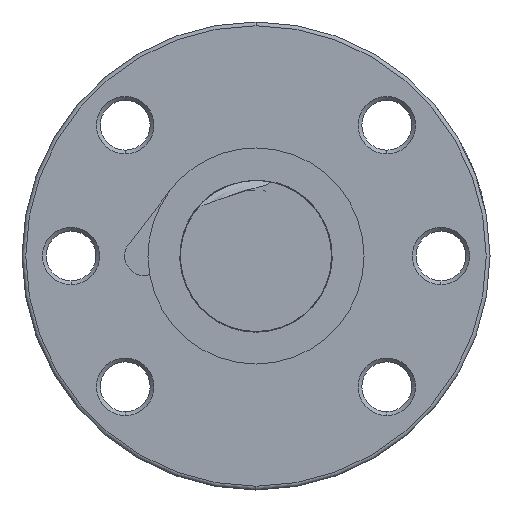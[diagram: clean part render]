
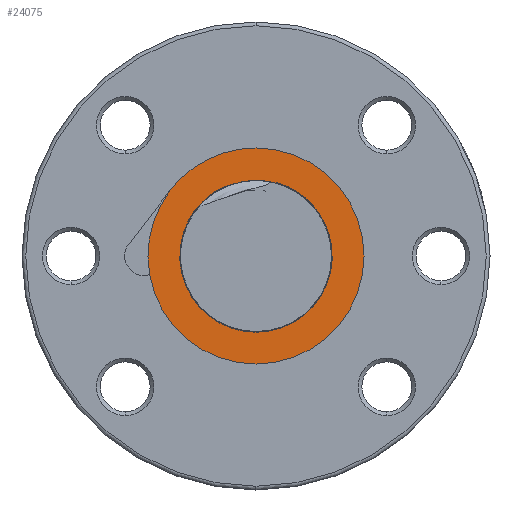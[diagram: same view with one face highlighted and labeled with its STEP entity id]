
A CAD part, left-side view. The second image highlights one B-rep face of the part: STEP entity #24075.
In plain terms, the highlighted planar face has unit normal (-1, 0, 0).
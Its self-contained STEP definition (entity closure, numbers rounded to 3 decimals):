
#953 = DIRECTION ( 'NONE',  ( 0., 0., 1. ) ) ;
#954 = DIRECTION ( 'NONE',  ( -1., 0., 0. ) ) ;
#1142 = CARTESIAN_POINT ( 'NONE',  ( -115.8, 0., 0. ) ) ;
#1143 = AXIS2_PLACEMENT_3D ( 'NONE', #1142, #954, #953 ) ;
#1148 = CIRCLE ( 'NONE', #1143, 10.1 ) ;
#1314 = CARTESIAN_POINT ( 'NONE',  ( -115.8, -2.664, 9.742 ) ) ;
#1384 = CARTESIAN_POINT ( 'NONE',  ( -115.8, 14.095, -2.486 ) ) ;
#1385 = DIRECTION ( 'NONE',  ( 0., 0., 1. ) ) ;
#1386 = DIRECTION ( 'NONE',  ( -1., 0., 0. ) ) ;
#1387 = CARTESIAN_POINT ( 'NONE',  ( -115.8, 0., 0. ) ) ;
#1388 = AXIS2_PLACEMENT_3D ( 'NONE', #1387, #1386, #1385 ) ;
#1393 = CIRCLE ( 'NONE', #1388, 14.313 ) ;
#1483 = CARTESIAN_POINT ( 'NONE',  ( -115.8, 0., -10.1 ) ) ;
#1546 = DIRECTION ( 'NONE',  ( 0., 0., 1. ) ) ;
#1547 = DIRECTION ( 'NONE',  ( -1., 0., 0. ) ) ;
#1548 = CARTESIAN_POINT ( 'NONE',  ( -115.8, 0., 0. ) ) ;
#1549 = AXIS2_PLACEMENT_3D ( 'NONE', #1548, #1547, #1546 ) ;
#1550 = CIRCLE ( 'NONE', #1549, 10.1 ) ;
#1551 = FACE_BOUND ( 'NONE', #24071, .T. ) ;
#1552 = CARTESIAN_POINT ( 'NONE',  ( -115.8, 7.028, 7.254 ) ) ;
#1553 = CARTESIAN_POINT ( 'NONE',  ( -115.8, 6.932, 7.21 ) ) ;
#1554 = CARTESIAN_POINT ( 'NONE',  ( -115.8, 6.825, 7.192 ) ) ;
#1555 = CARTESIAN_POINT ( 'NONE',  ( -115.8, 6.614, 7.181 ) ) ;
#1556 = CARTESIAN_POINT ( 'NONE',  ( -115.8, 6.509, 7.188 ) ) ;
#1557 = CARTESIAN_POINT ( 'NONE',  ( -115.8, 6.197, 7.225 ) ) ;
#1558 = CARTESIAN_POINT ( 'NONE',  ( -115.8, 5.99, 7.274 ) ) ;
#1559 = CARTESIAN_POINT ( 'NONE',  ( -115.8, 5.38, 7.438 ) ) ;
#1560 = CARTESIAN_POINT ( 'NONE',  ( -115.8, 4.981, 7.574 ) ) ;
#1561 = CARTESIAN_POINT ( 'NONE',  ( -115.8, 4.181, 7.841 ) ) ;
#1562 = CARTESIAN_POINT ( 'NONE',  ( -115.8, 3.78, 7.973 ) ) ;
#1563 = CARTESIAN_POINT ( 'NONE',  ( -115.8, 2.975, 8.22 ) ) ;
#1564 = CARTESIAN_POINT ( 'NONE',  ( -115.8, 2.57, 8.335 ) ) ;
#1565 = CARTESIAN_POINT ( 'NONE',  ( -115.8, 1.755, 8.544 ) ) ;
#1566 = CARTESIAN_POINT ( 'NONE',  ( -115.8, 1.346, 8.638 ) ) ;
#1567 = CARTESIAN_POINT ( 'NONE',  ( -115.8, 0.523, 8.809 ) ) ;
#1568 = CARTESIAN_POINT ( 'NONE',  ( -115.8, 0.109, 8.886 ) ) ;
#1569 = CARTESIAN_POINT ( 'NONE',  ( -115.8, -0.719, 9.038 ) ) ;
#1570 = CARTESIAN_POINT ( 'NONE',  ( -115.8, -1.134, 9.11 ) ) ;
#1571 = CARTESIAN_POINT ( 'NONE',  ( -115.8, -1.745, 9.26 ) ) ;
#1572 = CARTESIAN_POINT ( 'NONE',  ( -115.8, -1.947, 9.316 ) ) ;
#1573 = CARTESIAN_POINT ( 'NONE',  ( -115.8, -2.24, 9.434 ) ) ;
#1574 = CARTESIAN_POINT ( 'NONE',  ( -115.8, -2.336, 9.479 ) ) ;
#1575 = CARTESIAN_POINT ( 'NONE',  ( -115.8, -2.516, 9.59 ) ) ;
#1576 = CARTESIAN_POINT ( 'NONE',  ( -115.8, -2.601, 9.658 ) ) ;
#1577 = CARTESIAN_POINT ( 'NONE',  ( -115.8, -2.664, 9.742 ) ) ;
#1578 = DIRECTION ( 'NONE',  ( 0., 0., 1. ) ) ;
#1579 = DIRECTION ( 'NONE',  ( -1., 0., 0. ) ) ;
#1580 = CARTESIAN_POINT ( 'NONE',  ( -115.8, 0., 10.1 ) ) ;
#1581 = AXIS2_PLACEMENT_3D ( 'NONE', #1580, #1579, #1578 ) ;
#1582 = PLANE ( 'NONE',  #1581 ) ;
#1583 = FACE_OUTER_BOUND ( 'NONE', #24199, .T. ) ;
#1584 = B_SPLINE_CURVE_WITH_KNOTS ( 'NONE', 3,
 ( #1577, #1576, #1575, #1574, #1573, #1572, #1571, #1570, #1569, #1568, #1567, #1566, #1565, #1564, #1563, #1562, #1561, #1560, #1559, #1558, #1557, #1556, #1555, #1554, #1553, #1552 ),
 .UNSPECIFIED., .F., .F.,
 ( 4, 2, 2, 2, 2, 2, 2, 2, 2, 2, 2, 2, 4 ),
 ( 0.013, 0.014, 0.014, 0.015, 0.016, 0.017, 0.018, 0.02, 0.021, 0.022, 0.023, 0.023, 0.023 ),
 .UNSPECIFIED. ) ;
#1616 = DIRECTION ( 'NONE',  ( 0., 0., 1. ) ) ;
#1617 = DIRECTION ( 'NONE',  ( -1., 0., 0. ) ) ;
#1618 = CARTESIAN_POINT ( 'NONE',  ( -115.8, 0., 0. ) ) ;
#1619 = AXIS2_PLACEMENT_3D ( 'NONE', #1618, #1617, #1616 ) ;
#1620 = CIRCLE ( 'NONE', #1619, 14.313 ) ;
#1804 = CARTESIAN_POINT ( 'NONE',  ( -115.8, 7.028, 7.254 ) ) ;
#1936 = CARTESIAN_POINT ( 'NONE',  ( -115.8, 0., 14.313 ) ) ;
#1937 = CARTESIAN_POINT ( 'NONE',  ( -115.8, 0., -14.313 ) ) ;
#1943 = CARTESIAN_POINT ( 'NONE',  ( -115.8, 11.329, 8.746 ) ) ;
#1944 = DIRECTION ( 'NONE',  ( 0., 0., 1. ) ) ;
#1945 = DIRECTION ( 'NONE',  ( -1., 0., 0. ) ) ;
#1946 = AXIS2_PLACEMENT_3D ( 'NONE', #1952, #1945, #1944 ) ;
#1947 = CIRCLE ( 'NONE', #1946, 14.313 ) ;
#1952 = CARTESIAN_POINT ( 'NONE',  ( -115.8, 0., 0. ) ) ;
#1986 = DIRECTION ( 'NONE',  ( 0., 0., 1. ) ) ;
#1987 = DIRECTION ( 'NONE',  ( -1., 0., 0. ) ) ;
#1988 = CARTESIAN_POINT ( 'NONE',  ( -115.8, 0., 0. ) ) ;
#1989 = AXIS2_PLACEMENT_3D ( 'NONE', #1988, #1987, #1986 ) ;
#1990 = CIRCLE ( 'NONE', #1989, 14.313 ) ;
#23810 = EDGE_CURVE ( 'NONE', #23997, #23980, #1148, .T. ) ;
#23938 = EDGE_CURVE ( 'NONE', #23939, #24221, #1393, .T. ) ;
#23939 = VERTEX_POINT ( 'NONE', #1384 ) ;
#23980 = VERTEX_POINT ( 'NONE', #1314 ) ;
#23997 = VERTEX_POINT ( 'NONE', #1483 ) ;
#24062 = ORIENTED_EDGE ( 'NONE', *, *, #24216, .T. ) ;
#24065 = ORIENTED_EDGE ( 'NONE', *, *, #24068, .T. ) ;
#24066 = ORIENTED_EDGE ( 'NONE', *, *, #23938, .T. ) ;
#24067 = ORIENTED_EDGE ( 'NONE', *, *, #24211, .T. ) ;
#24068 = EDGE_CURVE ( 'NONE', #24217, #23939, #1620, .T. ) ;
#24069 = ORIENTED_EDGE ( 'NONE', *, *, #23810, .F. ) ;
#24070 = EDGE_CURVE ( 'NONE', #23980, #24171, #1584, .T. ) ;
#24071 = EDGE_LOOP ( 'NONE', ( #24076, #24072, #24069 ) ) ;
#24072 = ORIENTED_EDGE ( 'NONE', *, *, #24070, .F. ) ;
#24073 = EDGE_CURVE ( 'NONE', #24171, #23997, #1550, .T. ) ;
#24075 = ADVANCED_FACE ( 'NONE', ( #1551, #1583 ), #1582, .T. ) ;
#24076 = ORIENTED_EDGE ( 'NONE', *, *, #24073, .F. ) ;
#24171 = VERTEX_POINT ( 'NONE', #1804 ) ;
#24199 = EDGE_LOOP ( 'NONE', ( #24065, #24066, #24067, #24062 ) ) ;
#24211 = EDGE_CURVE ( 'NONE', #24221, #24222, #1990, .T. ) ;
#24216 = EDGE_CURVE ( 'NONE', #24222, #24217, #1947, .T. ) ;
#24217 = VERTEX_POINT ( 'NONE', #1943 ) ;
#24221 = VERTEX_POINT ( 'NONE', #1937 ) ;
#24222 = VERTEX_POINT ( 'NONE', #1936 ) ;
